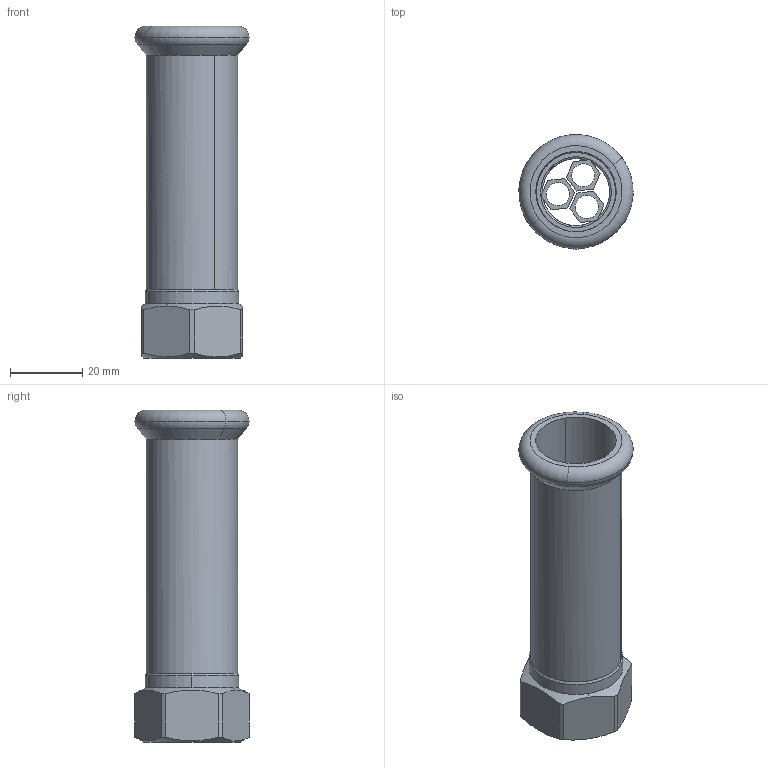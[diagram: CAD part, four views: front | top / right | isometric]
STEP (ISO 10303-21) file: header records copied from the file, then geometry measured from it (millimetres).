
FILE_DESCRIPTION(('OneSpaceDesigner STEP Export'),'2;1');
FILE_NAME('R2741 22xRp1-2.stp','2010-06-10T14:46:29',(''),(''),'OneSpace Designer STEP processor for AP214 (Solid Model)','OneSpace Modeling 15.00A 14-Mar-2007 (C) CoCreate Software GmbH','');
FILE_SCHEMA(('AUTOMOTIVE_DESIGN { 1 0 10303 214 1 1 1 1 }'));
Length unit declared in the file: millimetre
Products named in the file (2): R2741_22xRp1-2
Assembly tree (1 placements, depth 2):
  R2741_22xRp1-2
    R2741_22xRp1-2
Bounding box: 31.64 x 31.7 x 92 mm (x, y, z)
Volume: 16055.9 mm3; surface area: 15285.8 mm2
Topology: 1 solids, 1 shells, 86 faces, 235 edges, 154 vertices
Faces by surface type: plane 38, cylinder 27, cone 17, torus 4
Entity records: 3502 total; most frequent: CARTESIAN_POINT 1411, ORIENTED_EDGE 470, DIRECTION 365, EDGE_CURVE 235, VERTEX_POINT 154, AXIS2_PLACEMENT_3D 123, VECTOR 119, LINE 119
